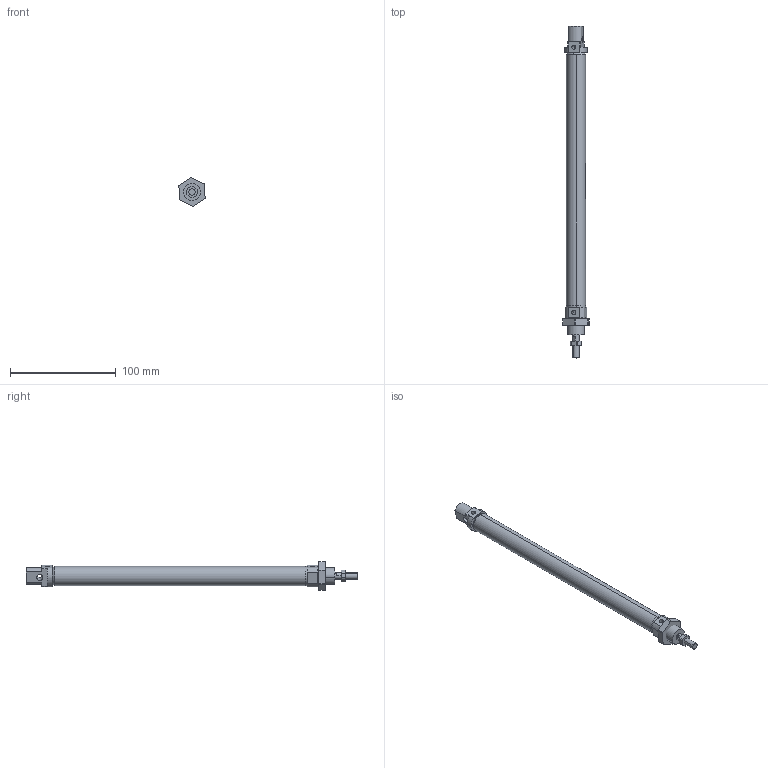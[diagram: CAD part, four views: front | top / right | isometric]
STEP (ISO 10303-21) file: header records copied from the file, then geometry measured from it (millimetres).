
FILE_DESCRIPTION (( 'STEP AP214' ), '1' );
FILE_NAME ('RMA_16_200_WEB.STEP', '2021-05-09T12:37:08', ( '' ), ( '' ), 'SwSTEP 2.0', 'SolidWorks 2021', '' );
FILE_SCHEMA (( 'AUTOMOTIVE_DESIGN' ));
Length unit declared in the file: millimetre
Products named in the file (7): RMA_16_M尳_WEB; RMA16CÝVATA; RMA16 KÜÇÜK CÝVATA; RMA_16_BORU_WEB; RMA16KAPAK; RMA16ARKA; RMA_16_200_WEB
Assembly tree (6 placements, depth 2):
  RMA_16_200_WEB
    RMA_16_BORU_WEB
    RMA16KAPAK
    RMA16ARKA
    RMA16CÝVATA
    RMA_16_M尳_WEB
    RMA16 KÜÇÜK CÝVATA
Bounding box: 24.85 x 314 x 27.33 mm (x, y, z)
Volume: 27861.1 mm3; surface area: 33741.6 mm2
Topology: 6 solids, 6 shells, 251 faces, 657 edges, 438 vertices
Faces by surface type: plane 116, bspline 81, cylinder 50, cone 4
Entity records: 13518 total; most frequent: CARTESIAN_POINT 5685, ORIENTED_EDGE 1314, DIRECTION 995, EDGE_CURVE 657, VERTEX_POINT 438, VECTOR 343, LINE 343, AXIS2_PLACEMENT_3D 326
